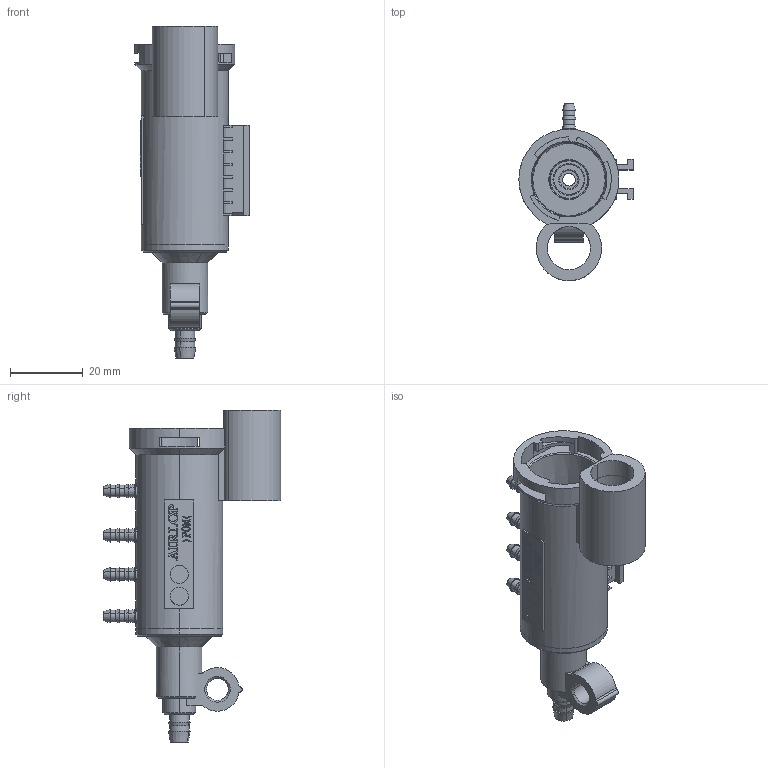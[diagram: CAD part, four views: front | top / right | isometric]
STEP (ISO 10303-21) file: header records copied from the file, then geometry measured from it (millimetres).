
FILE_DESCRIPTION(('CATIA V5 STEP Exchange'),'2;1');
FILE_NAME('C:\Users\Administrator\Desktop\fati.stp','2021-05-27T03:23:21+00:00',('none'),('none'),'CATIA Version 5 Release 20 GA (IN-10)','CATIA V5 STEP AP214','none');
FILE_SCHEMA(('AUTOMOTIVE_DESIGN { 1 0 10303 214 1 1 1 1 }'));
Length unit declared in the file: millimetre
Products named in the file (1): BPC0010078
Bounding box: 31.5 x 49 x 91.5 mm (x, y, z)
Volume: 14858.8 mm3; surface area: 14857.3 mm2
Topology: 1 solids, 1 shells, 1419 faces, 4040 edges, 2672 vertices
Faces by surface type: plane 1212, cylinder 123, cone 65, torus 18, extrusion 1
Entity records: 45574 total; most frequent: CARTESIAN_POINT 9472, ORIENTED_EDGE 8080, DIRECTION 6426, EDGE_CURVE 4040, VECTOR 3589, LINE 3588, VERTEX_POINT 2672, AXIS2_PLACEMENT_3D 1589
